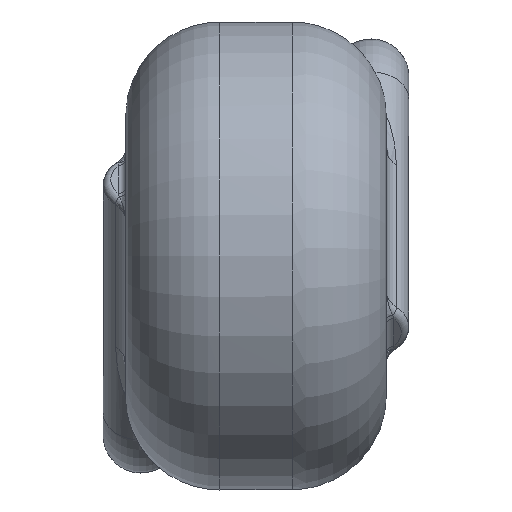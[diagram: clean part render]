
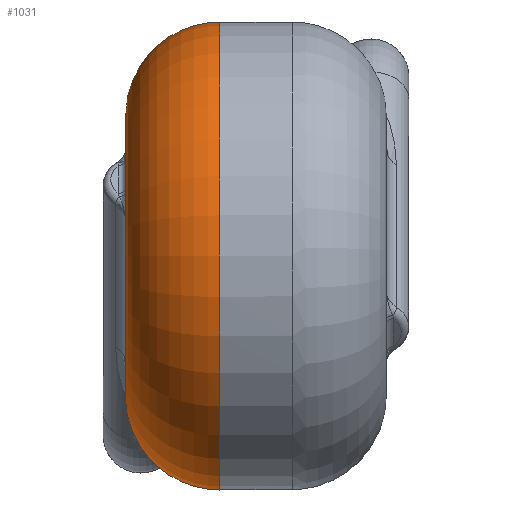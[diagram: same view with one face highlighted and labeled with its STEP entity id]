
A CAD part, left-side view. The second image highlights one B-rep face of the part: STEP entity #1031.
In plain terms, the highlighted toroidal (fillet/blend) face has major radius 3.7 mm and minor radius 2.5 mm.
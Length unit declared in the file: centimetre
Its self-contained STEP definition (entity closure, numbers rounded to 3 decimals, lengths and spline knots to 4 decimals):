
#746=CARTESIAN_POINT('',(0.2383,0.61,-0.283));
#747=VERTEX_POINT('',#746);
#809=CARTESIAN_POINT('',(0.4198,0.4186,-0.4467));
#810=VERTEX_POINT('',#809);
#818=CARTESIAN_POINT('',(0.4198,0.4186,-0.4467));
#819=CARTESIAN_POINT('',(0.3958,0.4409,-0.462));
#820=CARTESIAN_POINT('',(0.3645,0.4855,-0.4649));
#821=CARTESIAN_POINT('',(0.3267,0.5502,-0.4274));
#822=CARTESIAN_POINT('',(0.2967,0.5967,-0.3631));
#823=CARTESIAN_POINT('',(0.2624,0.61,-0.3058));
#824=CARTESIAN_POINT('',(0.2383,0.61,-0.283));
#825=B_SPLINE_CURVE_WITH_KNOTS('',3,(#818,#819,#820,#821,#822,#823,#824),.UNSPECIFIED.,.F.,.U.,(4,1,1,1,4),(-0.4598,-0.3284,-0.2628,-0.1314,0.),.UNSPECIFIED.);
#826=EDGE_CURVE('',#810,#747,#825,.T.);
#869=CARTESIAN_POINT('',(0.4999,0.3816,-0.3652));
#870=VERTEX_POINT('',#869);
#878=CARTESIAN_POINT('',(0.4999,0.3816,-0.3652));
#879=CARTESIAN_POINT('',(0.4752,0.3806,-0.3991));
#880=CARTESIAN_POINT('',(0.4459,0.3945,-0.4302));
#881=CARTESIAN_POINT('',(0.4198,0.4186,-0.4467));
#882=B_SPLINE_CURVE_WITH_KNOTS('',3,(#878,#879,#880,#881),.UNSPECIFIED.,.F.,.U.,(4,4),(-0.1423,0.),.UNSPECIFIED.);
#883=EDGE_CURVE('',#870,#810,#882,.T.);
#957=CARTESIAN_POINT('',(0.3685,0.61,-0.0337));
#958=VERTEX_POINT('',#957);
#966=CARTESIAN_POINT('',(0.3685,0.61,-0.0337));
#967=CARTESIAN_POINT('',(0.384,0.61,-0.0544));
#968=CARTESIAN_POINT('',(0.4176,0.6064,-0.0902));
#969=CARTESIAN_POINT('',(0.4724,0.5831,-0.1266));
#970=CARTESIAN_POINT('',(0.5367,0.5316,-0.1665));
#971=CARTESIAN_POINT('',(0.5678,0.4538,-0.2186));
#972=CARTESIAN_POINT('',(0.5426,0.3945,-0.2991));
#973=CARTESIAN_POINT('',(0.5154,0.3822,-0.3438));
#974=CARTESIAN_POINT('',(0.4999,0.3816,-0.3652));
#975=B_SPLINE_CURVE_WITH_KNOTS('',3,(#966,#967,#968,#969,#970,#971,#972,#973,#974),.UNSPECIFIED.,.F.,.U.,(4,1,1,1,1,1,4),(-1.2301,-1.1404,-1.0507,-0.961,-0.7816,-0.6919,-0.6022),.UNSPECIFIED.);
#976=EDGE_CURVE('',#958,#870,#975,.T.);
#1003=CARTESIAN_POINT('',(0.0,0.36,0.0));
#1004=DIRECTION('',(0.0,1.0,0.0));
#1005=DIRECTION('',(1.0,0.0,0.0));
#1006=AXIS2_PLACEMENT_3D('',#1003,#1004,#1005);
#1007=TOROIDAL_SURFACE('',#1006,0.37,0.25);
#1008=CARTESIAN_POINT('',(0.62,0.36,0.));
#1009=VERTEX_POINT('',#1008);
#1010=CARTESIAN_POINT('',(0.0,0.36,0.0));
#1011=DIRECTION('',(0.0,1.0,0.0));
#1012=DIRECTION('',(-1.0,0.0,0.0));
#1013=AXIS2_PLACEMENT_3D('',#1010,#1011,#1012);
#1014=CIRCLE('',#1013,0.62);
#1015=EDGE_CURVE('',#1009,#1009,#1014,.T.);
#1016=ORIENTED_EDGE('',*,*,#1015,.T.);
#1017=EDGE_LOOP('',(#1016));
#1018=FACE_OUTER_BOUND('',#1017,.T.);
#1019=ORIENTED_EDGE('',*,*,#976,.F.);
#1020=CARTESIAN_POINT('',(0.0,0.61,0.0));
#1021=DIRECTION('',(0.0,-1.0,0.0));
#1022=DIRECTION('',(-1.0,0.0,0.0));
#1023=AXIS2_PLACEMENT_3D('',#1020,#1021,#1022);
#1024=CIRCLE('',#1023,0.37);
#1025=EDGE_CURVE('',#958,#747,#1024,.T.);
#1026=ORIENTED_EDGE('',*,*,#1025,.T.);
#1027=ORIENTED_EDGE('',*,*,#826,.F.);
#1028=ORIENTED_EDGE('',*,*,#883,.F.);
#1029=EDGE_LOOP('',(#1019,#1026,#1027,#1028));
#1030=FACE_BOUND('',#1029,.T.);
#1031=ADVANCED_FACE('',(#1018,#1030),#1007,.T.);
